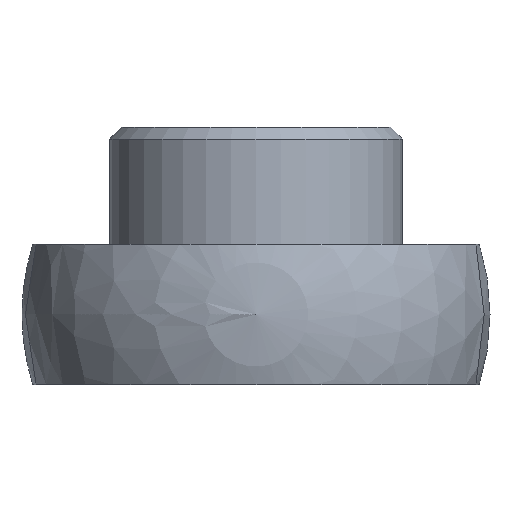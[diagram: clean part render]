
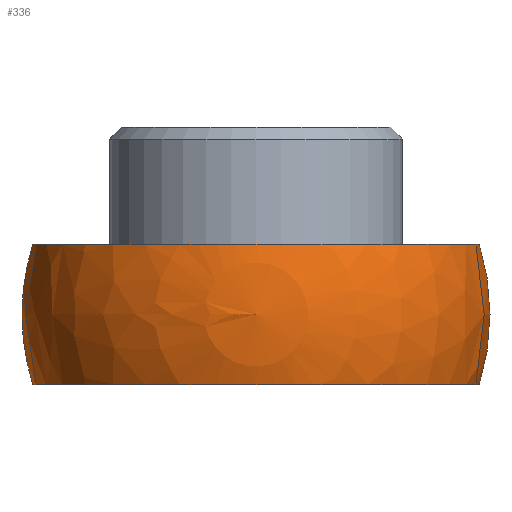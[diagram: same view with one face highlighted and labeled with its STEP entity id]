
A CAD part, front view. The second image highlights one B-rep face of the part: STEP entity #336.
In plain terms, the highlighted spherical face has radius 20 mm.
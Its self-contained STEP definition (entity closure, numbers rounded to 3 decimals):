
#230 = ORIENTED_EDGE ( 'NONE', *, *, #343, .F. ) ;
#233 = EDGE_CURVE ( 'NONE', #252, #344, #928, .T. ) ;
#240 = ORIENTED_EDGE ( 'NONE', *, *, #341, .T. ) ;
#242 = EDGE_LOOP ( 'NONE', ( #240, #339, #230, #335 ) ) ;
#252 = VERTEX_POINT ( 'NONE', #1109 ) ;
#335 = ORIENTED_EDGE ( 'NONE', *, *, #233, .F. ) ;
#336 = ADVANCED_FACE ( 'NONE', ( #999 ), #1142, .T. ) ;
#337 = VERTEX_POINT ( 'NONE', #992 ) ;
#338 = VERTEX_POINT ( 'NONE', #996 ) ;
#339 = ORIENTED_EDGE ( 'NONE', *, *, #340, .T. ) ;
#340 = EDGE_CURVE ( 'NONE', #337, #338, #1000, .T. ) ;
#341 = EDGE_CURVE ( 'NONE', #252, #337, #995, .T. ) ;
#343 = EDGE_CURVE ( 'NONE', #344, #338, #1127, .T. ) ;
#344 = VERTEX_POINT ( 'NONE', #994 ) ;
#789 = AXIS2_PLACEMENT_3D ( 'NONE', #922, #920, #919 ) ;
#919 = DIRECTION ( 'NONE',  ( 0., 0., 1. ) ) ;
#920 = DIRECTION ( 'NONE',  ( 0., 1., 0. ) ) ;
#922 = CARTESIAN_POINT ( 'NONE',  ( 0., 0., 0. ) ) ;
#928 = CIRCLE ( 'NONE', #789, 20. ) ;
#992 = CARTESIAN_POINT ( 'NONE',  ( 19.079, 0., -6. ) ) ;
#993 = DIRECTION ( 'NONE',  ( -1., 0., 0. ) ) ;
#994 = CARTESIAN_POINT ( 'NONE',  ( -19.079, 0., 6. ) ) ;
#995 = CIRCLE ( 'NONE', #1128, 19.079 ) ;
#996 = CARTESIAN_POINT ( 'NONE',  ( 19.079, 0., 6. ) ) ;
#997 = DIRECTION ( 'NONE',  ( 0., -1., 0. ) ) ;
#998 = CARTESIAN_POINT ( 'NONE',  ( 0., 0., 0. ) ) ;
#999 = FACE_OUTER_BOUND ( 'NONE', #242, .T. ) ;
#1000 = CIRCLE ( 'NONE', #1132, 20. ) ;
#1109 = CARTESIAN_POINT ( 'NONE',  ( -19.079, 0., -6. ) ) ;
#1118 = DIRECTION ( 'NONE',  ( 1., 0., 0. ) ) ;
#1119 = DIRECTION ( 'NONE',  ( 0., 0., 1. ) ) ;
#1120 = CARTESIAN_POINT ( 'NONE',  ( 0., 0., 6. ) ) ;
#1121 = AXIS2_PLACEMENT_3D ( 'NONE', #1120, #1119, #1118 ) ;
#1124 = DIRECTION ( 'NONE',  ( 1., 0., 0. ) ) ;
#1125 = DIRECTION ( 'NONE',  ( 0., 0., 1. ) ) ;
#1127 = CIRCLE ( 'NONE', #1121, 19.079 ) ;
#1128 = AXIS2_PLACEMENT_3D ( 'NONE', #1133, #1125, #1124 ) ;
#1129 = DIRECTION ( 'NONE',  ( 1., 0., 0. ) ) ;
#1130 = DIRECTION ( 'NONE',  ( 0., -1., 0. ) ) ;
#1131 = CARTESIAN_POINT ( 'NONE',  ( 0., 0., 0. ) ) ;
#1132 = AXIS2_PLACEMENT_3D ( 'NONE', #1131, #1130, #1129 ) ;
#1133 = CARTESIAN_POINT ( 'NONE',  ( 0., 0., -6. ) ) ;
#1135 = AXIS2_PLACEMENT_3D ( 'NONE', #998, #997, #993 ) ;
#1142 = SPHERICAL_SURFACE ( 'NONE', #1135, 20. ) ;
